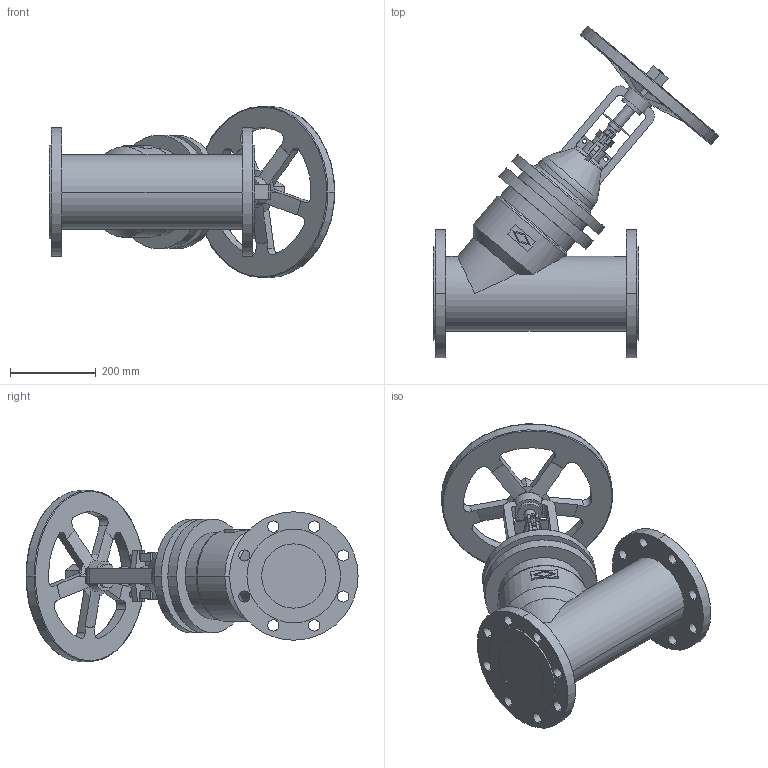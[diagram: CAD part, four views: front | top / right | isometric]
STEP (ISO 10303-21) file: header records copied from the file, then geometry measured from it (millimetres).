
FILE_DESCRIPTION(('OneSpaceDesigner STEP Export'),'2;1');
FILE_NAME('c000004400.stp','2010-05-07T 9:37:37',(''),(''),'OneSpace Designer STEP processor for AP214 (Solid Model)','OneSpace Modeling 15.50B 03-Nov-2007 (C) CoCreate Software GmbH','');
FILE_SCHEMA(('AUTOMOTIVE_DESIGN { 1 0 10303 214 1 1 1 1 }'));
Length unit declared in the file: millimetre
Products named in the file (1): 1
Bounding box: 666.62 x 774.98 x 400 mm (x, y, z)
Volume: 26064862.7 mm3; surface area: 1155561.5 mm2
Topology: 1 solids, 1 shells, 323 faces, 881 edges, 580 vertices
Faces by surface type: plane 146, cylinder 136, torus 29, cone 12
Entity records: 12671 total; most frequent: CARTESIAN_POINT 2367, ORIENTED_EDGE 1762, DIRECTION 1414, EDGE_CURVE 881, VERTEX_POINT 580, AXIS2_PLACEMENT_3D 492, VECTOR 430, LINE 430
